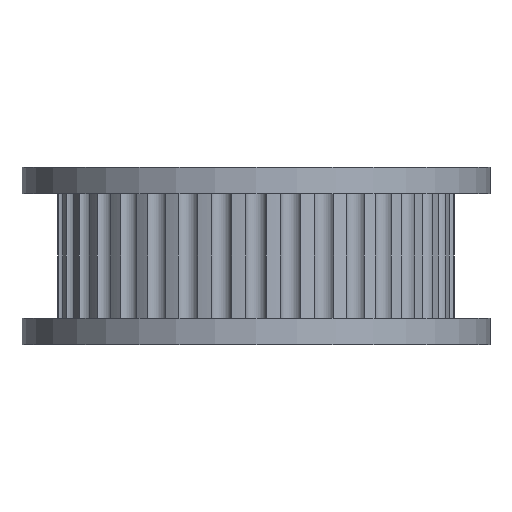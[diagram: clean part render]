
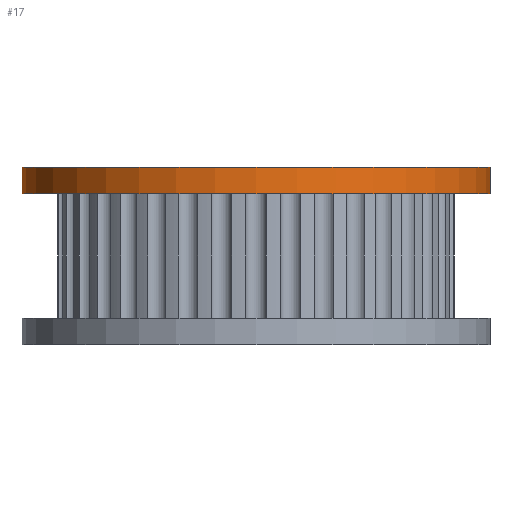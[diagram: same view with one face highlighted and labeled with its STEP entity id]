
A CAD part, front view. The second image highlights one B-rep face of the part: STEP entity #17.
In plain terms, the highlighted cylindrical face has radius 13.205 mm (diameter 26.41 mm), a full revolution.
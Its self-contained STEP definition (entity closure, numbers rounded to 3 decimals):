
#17 = ADVANCED_FACE('',(#18),#32,.T.);
#18 = FACE_BOUND('',#19,.F.);
#19 = EDGE_LOOP('',(#20,#50,#77,#78));
#20 = ORIENTED_EDGE('',*,*,#21,.T.);
#21 = EDGE_CURVE('',#22,#24,#26,.T.);
#22 = VERTEX_POINT('',#23);
#23 = CARTESIAN_POINT('',(13.205,0.,8.5));
#24 = VERTEX_POINT('',#25);
#25 = CARTESIAN_POINT('',(13.205,0.,10.));
#26 = SEAM_CURVE('',#27,(#31,#43),.PCURVE_S1.);
#27 = LINE('',#28,#29);
#28 = CARTESIAN_POINT('',(13.205,0.,8.5));
#29 = VECTOR('',#30,1.);
#30 = DIRECTION('',(0.,0.,1.));
#31 = PCURVE('',#32,#37);
#32 = CYLINDRICAL_SURFACE('',#33,13.205);
#33 = AXIS2_PLACEMENT_3D('',#34,#35,#36);
#34 = CARTESIAN_POINT('',(0.,0.,8.5));
#35 = DIRECTION('',(-0.,-0.,-1.));
#36 = DIRECTION('',(1.,0.,0.));
#37 = DEFINITIONAL_REPRESENTATION('',(#38),#42);
#38 = LINE('',#39,#40);
#39 = CARTESIAN_POINT('',(-0.,0.));
#40 = VECTOR('',#41,1.);
#41 = DIRECTION('',(-0.,-1.));
#42 = ( GEOMETRIC_REPRESENTATION_CONTEXT(2) 
PARAMETRIC_REPRESENTATION_CONTEXT() REPRESENTATION_CONTEXT('2D SPACE',''
  ) );
#43 = PCURVE('',#32,#44);
#44 = DEFINITIONAL_REPRESENTATION('',(#45),#49);
#45 = LINE('',#46,#47);
#46 = CARTESIAN_POINT('',(-6.283,0.));
#47 = VECTOR('',#48,1.);
#48 = DIRECTION('',(-0.,-1.));
#49 = ( GEOMETRIC_REPRESENTATION_CONTEXT(2) 
PARAMETRIC_REPRESENTATION_CONTEXT() REPRESENTATION_CONTEXT('2D SPACE',''
  ) );
#50 = ORIENTED_EDGE('',*,*,#51,.T.);
#51 = EDGE_CURVE('',#24,#24,#52,.T.);
#52 = SURFACE_CURVE('',#53,(#58,#65),.PCURVE_S1.);
#53 = CIRCLE('',#54,13.205);
#54 = AXIS2_PLACEMENT_3D('',#55,#56,#57);
#55 = CARTESIAN_POINT('',(0.,0.,10.));
#56 = DIRECTION('',(0.,0.,1.));
#57 = DIRECTION('',(1.,0.,0.));
#58 = PCURVE('',#32,#59);
#59 = DEFINITIONAL_REPRESENTATION('',(#60),#64);
#60 = LINE('',#61,#62);
#61 = CARTESIAN_POINT('',(-0.,-1.5));
#62 = VECTOR('',#63,1.);
#63 = DIRECTION('',(-1.,0.));
#64 = ( GEOMETRIC_REPRESENTATION_CONTEXT(2) 
PARAMETRIC_REPRESENTATION_CONTEXT() REPRESENTATION_CONTEXT('2D SPACE',''
  ) );
#65 = PCURVE('',#66,#71);
#66 = PLANE('',#67);
#67 = AXIS2_PLACEMENT_3D('',#68,#69,#70);
#68 = CARTESIAN_POINT('',(0.,0.,10.));
#69 = DIRECTION('',(0.,0.,1.));
#70 = DIRECTION('',(1.,0.,-0.));
#71 = DEFINITIONAL_REPRESENTATION('',(#72),#76);
#72 = CIRCLE('',#73,13.205);
#73 = AXIS2_PLACEMENT_2D('',#74,#75);
#74 = CARTESIAN_POINT('',(0.,0.));
#75 = DIRECTION('',(1.,0.));
#76 = ( GEOMETRIC_REPRESENTATION_CONTEXT(2) 
PARAMETRIC_REPRESENTATION_CONTEXT() REPRESENTATION_CONTEXT('2D SPACE',''
  ) );
#77 = ORIENTED_EDGE('',*,*,#21,.F.);
#78 = ORIENTED_EDGE('',*,*,#79,.F.);
#79 = EDGE_CURVE('',#22,#22,#80,.T.);
#80 = SURFACE_CURVE('',#81,(#86,#93),.PCURVE_S1.);
#81 = CIRCLE('',#82,13.205);
#82 = AXIS2_PLACEMENT_3D('',#83,#84,#85);
#83 = CARTESIAN_POINT('',(0.,0.,8.5));
#84 = DIRECTION('',(0.,0.,1.));
#85 = DIRECTION('',(1.,0.,0.));
#86 = PCURVE('',#32,#87);
#87 = DEFINITIONAL_REPRESENTATION('',(#88),#92);
#88 = LINE('',#89,#90);
#89 = CARTESIAN_POINT('',(-0.,0.));
#90 = VECTOR('',#91,1.);
#91 = DIRECTION('',(-1.,0.));
#92 = ( GEOMETRIC_REPRESENTATION_CONTEXT(2) 
PARAMETRIC_REPRESENTATION_CONTEXT() REPRESENTATION_CONTEXT('2D SPACE',''
  ) );
#93 = PCURVE('',#94,#99);
#94 = PLANE('',#95);
#95 = AXIS2_PLACEMENT_3D('',#96,#97,#98);
#96 = CARTESIAN_POINT('',(0.,0.,8.5));
#97 = DIRECTION('',(0.,0.,1.));
#98 = DIRECTION('',(1.,0.,-0.));
#99 = DEFINITIONAL_REPRESENTATION('',(#100),#104);
#100 = CIRCLE('',#101,13.205);
#101 = AXIS2_PLACEMENT_2D('',#102,#103);
#102 = CARTESIAN_POINT('',(0.,0.));
#103 = DIRECTION('',(1.,0.));
#104 = ( GEOMETRIC_REPRESENTATION_CONTEXT(2) 
PARAMETRIC_REPRESENTATION_CONTEXT() REPRESENTATION_CONTEXT('2D SPACE',''
  ) );
